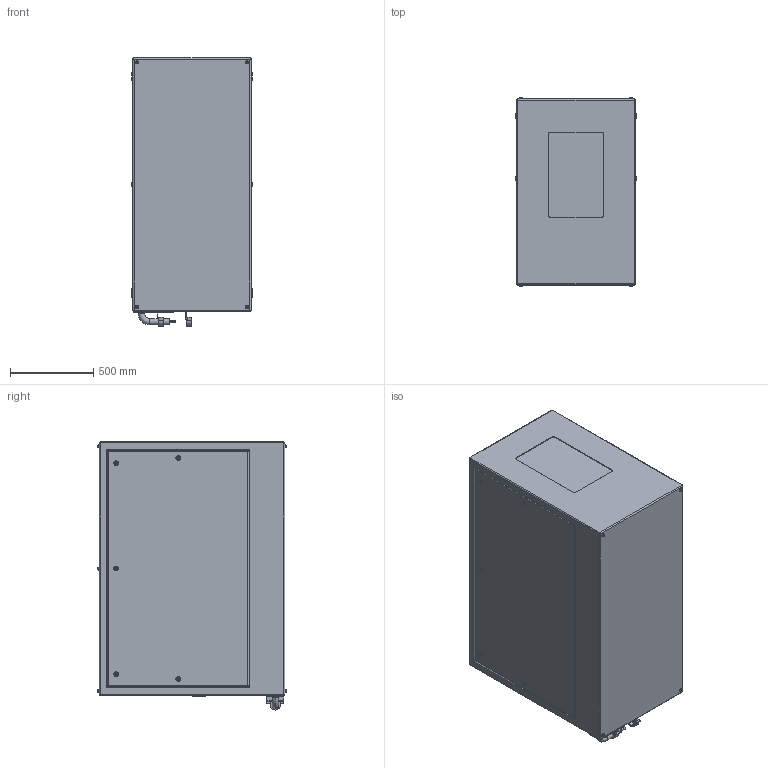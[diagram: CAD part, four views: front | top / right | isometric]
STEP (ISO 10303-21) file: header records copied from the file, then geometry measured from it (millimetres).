
FILE_DESCRIPTION (( 'STEP AP214' ), '1' );
FILE_NAME ('Oasis 59.514.P R02.STEP', '2022-09-12T23:48:30', ( '' ), ( '' ), 'SwSTEP 2.0', 'SolidWorks 2020', '' );
FILE_SCHEMA (( 'AUTOMOTIVE_DESIGN' ));
Length unit declared in the file: inch
Products named in the file (1): Oasis 59.514.P R02
Bounding box: 723.9 x 1134.87 x 1612.9 mm (x, y, z)
Volume: 1210058105.5 mm3; surface area: 7816787.7 mm2
Topology: 3 solids, 9 shells, 570 faces, 1301 edges, 826 vertices
Faces by surface type: plane 315, cylinder 193, torus 54, bspline 8
Entity records: 21891 total; most frequent: CARTESIAN_POINT 3210, DIRECTION 2843, ORIENTED_EDGE 2586, EDGE_CURVE 1293, AXIS2_PLACEMENT_3D 1019, VERTEX_POINT 826, LINE 805, VECTOR 805
